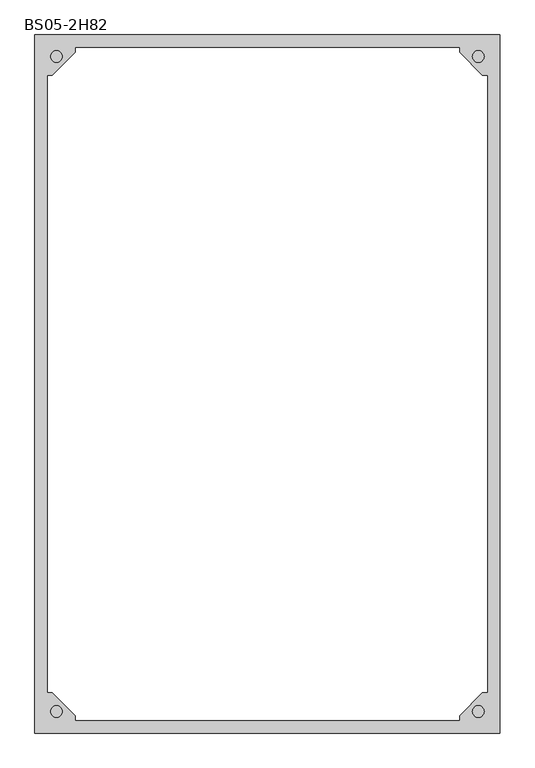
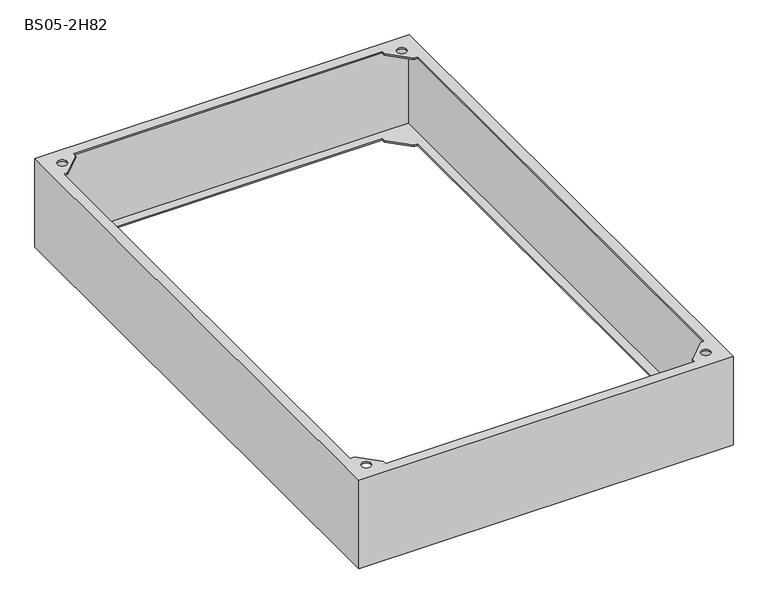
"""IFC4 building model written with IfcOpenShell, lengths in millimetres: proxy geometry, Цоколь для напольных шкафов : BS05-2H82."""

from ifc_helpers import new_model, si_unit, frame, origin, place, context, project, spatial, polyline, circle_curve, source, transform, mapped, element, save
from ifc_brep_helpers import plane_surface, revolved_surface, advanced_brep


def bs05_2h82_ed295d53(model_context):
    return source(origin(), model_context, "Body", "AdvancedBrep", [
        advanced_brep(
        [(400.0, -600.0, 200.0), (400.0, -600.0, 197.0), (400.0, -600.0, 3.0), (400.0, -600.0, 0.0), (400.0, 600.0, 0.0), (400.0, 600.0, 3.0), (400.0, 600.0, 197.0), (400.0, 600.0, 200.0), (378.0, 530.0, 0.0), (378.0, -530.0, 0.0), (378.0, -530.0, 3.0), (378.0, 530.0, 3.0), (397.0, 597.0, 197.0), (397.0, 597.0, 3.0), (397.0, -597.0, 3.0), (397.0, -597.0, 197.0), (378.0, 530.0, 197.0), (378.0, -530.0, 197.0), (378.0, -530.0, 200.0), (378.0, 530.0, 200.0), (-400.0, -600.0, 200.0), (-400.0, -600.0, 197.0), (-400.0, -600.0, 3.0), (-400.0, -600.0, 0.0), (330.0, -578.0, 0.0), (-330.0, -578.0, 0.0), (-330.0, -578.0, 3.0), (330.0, -578.0, 3.0), (-397.0, -597.0, 3.0), (-397.0, -597.0, 197.0), (330.0, -578.0, 197.0), (-330.0, -578.0, 197.0), (-330.0, -578.0, 200.0), (330.0, -578.0, 200.0), (-400.0, 600.0, 200.0), (-400.0, 600.0, 197.0), (-400.0, 600.0, 3.0), (-400.0, 600.0, 0.0), (-378.0, -530.0, 0.0), (-378.0, 530.0, 0.0), (-378.0, 530.0, 3.0), (-378.0, -530.0, 3.0), (-397.0, 597.0, 3.0), (-397.0, 597.0, 197.0), (-378.0, -530.0, 197.0), (-378.0, 530.0, 197.0), (-378.0, 530.0, 200.0), (-378.0, -530.0, 200.0), (-330.0, -570.0, 200.0), (-370.0, -530.0, 200.0), (-370.0, 530.0, 200.0), (-330.0, 570.0, 200.0), (-330.0, 578.0, 200.0), (330.0, 578.0, 200.0), (330.0, 570.0, 200.0), (370.0, 530.0, 200.0), (370.0, -530.0, 200.0), (330.0, -570.0, 200.0), (-352.9289322, -562.9289322, 200.0), (-372.9289322, -562.9289322, 200.0), (372.9289322, -562.9289322, 200.0), (352.9289322, -562.9289322, 200.0), (-352.9289322, 562.9289322, 200.0), (-372.9289322, 562.9289322, 200.0), (372.9289322, 562.9289322, 200.0), (352.9289322, 562.9289322, 200.0), (370.0, 530.0, 0.0), (330.0, 570.0, 0.0), (330.0, 578.0, 0.0), (-330.0, 578.0, 0.0), (-330.0, 570.0, 0.0), (-370.0, 530.0, 0.0), (-370.0, -530.0, 0.0), (-330.0, -570.0, 0.0), (330.0, -570.0, 0.0), (370.0, -530.0, 0.0), (330.0, 578.0, 3.0), (-330.0, 578.0, 3.0), (370.0, -530.0, 3.0), (330.0, -570.0, 3.0), (-330.0, -570.0, 3.0), (-370.0, -530.0, 3.0), (-370.0, 530.0, 3.0), (-330.0, 570.0, 3.0), (330.0, 570.0, 3.0), (370.0, 530.0, 3.0), (-370.0, -530.0, 197.0), (-330.0, -570.0, 197.0), (330.0, -570.0, 197.0), (370.0, -530.0, 197.0), (370.0, 530.0, 197.0), (330.0, 570.0, 197.0), (330.0, 578.0, 197.0), (-330.0, 578.0, 197.0), (-330.0, 570.0, 197.0), (-370.0, 530.0, 197.0), (-352.9289322, -562.9289322, 197.0), (-372.9289322, -562.9289322, 197.0), (372.9289322, -562.9289322, 197.0), (352.9289322, -562.9289322, 197.0), (-352.9289322, 562.9289322, 197.0), (-372.9289322, 562.9289322, 197.0), (372.9289322, 562.9289322, 197.0), (352.9289322, 562.9289322, 197.0)],
        [
            (0, 1),
            (1, 2),
            (2, 3),
            (3, 4),
            (4, 5),
            (5, 6),
            (6, 7),
            (7, 0),
            (8, 9),
            (9, 10),
            (10, 11),
            (11, 8),
            (12, 13),
            (13, 14),
            (14, 15),
            (15, 12),
            (16, 17),
            (17, 18),
            (18, 19),
            (19, 16),
            (0, 20),
            (20, 21),
            (21, 22),
            (22, 23),
            (23, 3),
            (24, 25),
            (25, 26),
            (26, 27),
            (27, 24),
            (14, 28),
            (28, 29),
            (29, 15),
            (30, 31),
            (31, 32),
            (32, 33),
            (33, 30),
            (20, 34),
            (34, 35),
            (35, 36),
            (36, 37),
            (37, 23),
            (38, 39),
            (39, 40),
            (40, 41),
            (41, 38),
            (28, 42),
            (42, 43),
            (43, 29),
            (44, 45),
            (45, 46),
            (46, 47),
            (47, 44),
            (7, 34),
            (48, 49),
            (49, 47),
            (46, 50),
            (50, 51),
            (51, 52),
            (52, 53),
            (53, 54),
            (54, 55),
            (55, 19),
            (18, 56),
            (56, 57),
            (57, 33),
            (32, 48),
            (58, 59, circle_curve(frame((-362.9289322, -562.9289322, 200.0), z_axis=(0.0, 0.0, -1.0), x_axis=(-1.0, 0.0, 0.0)), 10.0)),
            (59, 58, circle_curve(frame((-362.9289322, -562.9289322, 200.0), z_axis=(0.0, 0.0, -1.0), x_axis=(-1.0, 0.0, 0.0)), 10.0)),
            (60, 61, circle_curve(frame((362.9289322, -562.9289322, 200.0), z_axis=(0.0, 0.0, -1.0), x_axis=(-1.0, 0.0, 0.0)), 10.0)),
            (61, 60, circle_curve(frame((362.9289322, -562.9289322, 200.0), z_axis=(0.0, 0.0, -1.0), x_axis=(-1.0, 0.0, 0.0)), 10.0)),
            (62, 63, circle_curve(frame((-362.9289322, 562.9289322, 200.0), z_axis=(0.0, 0.0, -1.0), x_axis=(-1.0, 0.0, 0.0)), 10.0)),
            (63, 62, circle_curve(frame((-362.9289322, 562.9289322, 200.0), z_axis=(0.0, 0.0, -1.0), x_axis=(-1.0, 0.0, 0.0)), 10.0)),
            (64, 65, circle_curve(frame((362.9289322, 562.9289322, 200.0), z_axis=(0.0, 0.0, -1.0), x_axis=(-1.0, 0.0, 0.0)), 10.0)),
            (65, 64, circle_curve(frame((362.9289322, 562.9289322, 200.0), z_axis=(0.0, 0.0, -1.0), x_axis=(-1.0, 0.0, 0.0)), 10.0)),
            (4, 37),
            (8, 66),
            (66, 67),
            (67, 68),
            (68, 69),
            (69, 70),
            (70, 71),
            (71, 39),
            (38, 72),
            (72, 73),
            (73, 25),
            (24, 74),
            (74, 75),
            (75, 9),
            (68, 76),
            (76, 77),
            (77, 69),
            (13, 42),
            (10, 78),
            (78, 79),
            (79, 27),
            (26, 80),
            (80, 81),
            (81, 41),
            (40, 82),
            (82, 83),
            (83, 77),
            (76, 84),
            (84, 85),
            (85, 11),
            (12, 43),
            (86, 87),
            (87, 31),
            (30, 88),
            (88, 89),
            (89, 17),
            (16, 90),
            (90, 91),
            (91, 92),
            (92, 93),
            (93, 94),
            (94, 95),
            (95, 45),
            (44, 86),
            (96, 97, circle_curve(frame((-362.9289322, -562.9289322, 197.0), z_axis=(0.0, 0.0, 1.0), x_axis=(-1.0, 0.0, 0.0)), 10.0)),
            (97, 96, circle_curve(frame((-362.9289322, -562.9289322, 197.0), z_axis=(0.0, 0.0, 1.0), x_axis=(-1.0, 0.0, 0.0)), 10.0)),
            (98, 99, circle_curve(frame((362.9289322, -562.9289322, 197.0), z_axis=(0.0, 0.0, 1.0), x_axis=(-1.0, 0.0, 0.0)), 10.0)),
            (99, 98, circle_curve(frame((362.9289322, -562.9289322, 197.0), z_axis=(0.0, 0.0, 1.0), x_axis=(-1.0, 0.0, 0.0)), 10.0)),
            (100, 101, circle_curve(frame((-362.9289322, 562.9289322, 197.0), z_axis=(0.0, 0.0, 1.0), x_axis=(-1.0, 0.0, 0.0)), 10.0)),
            (101, 100, circle_curve(frame((-362.9289322, 562.9289322, 197.0), z_axis=(0.0, 0.0, 1.0), x_axis=(-1.0, 0.0, 0.0)), 10.0)),
            (102, 103, circle_curve(frame((362.9289322, 562.9289322, 197.0), z_axis=(0.0, 0.0, 1.0), x_axis=(-1.0, 0.0, 0.0)), 10.0)),
            (103, 102, circle_curve(frame((362.9289322, 562.9289322, 197.0), z_axis=(0.0, 0.0, 1.0), x_axis=(-1.0, 0.0, 0.0)), 10.0)),
            (52, 93),
            (92, 53),
            (87, 48),
            (86, 49),
            (89, 56),
            (88, 57),
            (95, 50),
            (94, 51),
            (91, 54),
            (90, 55),
            (58, 96),
            (97, 59),
            (60, 98),
            (99, 61),
            (62, 100),
            (101, 63),
            (64, 102),
            (103, 65),
            (73, 80),
            (72, 81),
            (75, 78),
            (74, 79),
            (71, 82),
            (70, 83),
            (67, 84),
            (66, 85),
        ],
        [
            plane_surface(frame((400.0, 600.0, 200.0), z_axis=(1.0, 0.0, 0.0), x_axis=(0.0, -1.0, 0.0))),
            plane_surface(frame((378.0, 578.0, 0.0), z_axis=(-1.0, 0.0, 0.0), x_axis=(0.0, -1.0, 0.0))),
            plane_surface(frame((397.0, 597.0, 3.0), z_axis=(-1.0, 0.0, 0.0), x_axis=(0.0, -1.0, 0.0))),
            plane_surface(frame((378.0, 578.0, 197.0), z_axis=(-1.0, 0.0, 0.0), x_axis=(0.0, -1.0, 0.0))),
            plane_surface(frame((400.0, -600.0, 200.0), z_axis=(0.0, -1.0, 0.0), x_axis=(-1.0, 0.0, 0.0))),
            plane_surface(frame((378.0, -578.0, 0.0), z_axis=(0.0, 1.0, 0.0), x_axis=(-1.0, 0.0, 0.0))),
            plane_surface(frame((397.0, -597.0, 3.0), z_axis=(0.0, 1.0, 0.0), x_axis=(-1.0, 0.0, 0.0))),
            plane_surface(frame((378.0, -578.0, 197.0), z_axis=(0.0, 1.0, 0.0), x_axis=(-1.0, 0.0, 0.0))),
            plane_surface(frame((-400.0, -600.0, 200.0), z_axis=(-1.0, 0.0, 0.0), x_axis=(0.0, 1.0, 0.0))),
            plane_surface(frame((-378.0, -578.0, 0.0), z_axis=(1.0, 0.0, 0.0), x_axis=(0.0, 1.0, 0.0))),
            plane_surface(frame((-397.0, -597.0, 3.0), z_axis=(1.0, 0.0, 0.0), x_axis=(0.0, 1.0, 0.0))),
            plane_surface(frame((-378.0, -578.0, 197.0), z_axis=(1.0, 0.0, 0.0), x_axis=(0.0, 1.0, 0.0))),
            plane_surface(frame((-378.0, 578.0, 200.0), z_axis=(0.0, 0.0, 1.0), x_axis=(1.0, 0.0, 0.0))),
            plane_surface(frame((-400.0, 600.0, 200.0), z_axis=(0.0, 1.0, 0.0), x_axis=(1.0, 0.0, 0.0))),
            plane_surface(frame((-400.0, 600.0, 0.0), z_axis=(0.0, 0.0, -1.0), x_axis=(1.0, 0.0, 0.0))),
            plane_surface(frame((-378.0, 578.0, 0.0), z_axis=(0.0, -1.0, 0.0), x_axis=(1.0, 0.0, 0.0))),
            plane_surface(frame((-378.0, 578.0, 3.0), z_axis=(0.0, 0.0, 1.0), x_axis=(1.0, 0.0, 0.0))),
            plane_surface(frame((-397.0, 597.0, 3.0), z_axis=(0.0, -1.0, 0.0), x_axis=(1.0, 0.0, 0.0))),
            plane_surface(frame((-397.0, 597.0, 197.0), z_axis=(0.0, 0.0, -1.0), x_axis=(1.0, 0.0, 0.0))),
            plane_surface(frame((-378.0, 578.0, 197.0), z_axis=(0.0, -1.0, 0.0), x_axis=(1.0, 0.0, 0.0))),
            plane_surface(frame((-330.0, -600.0, 200.0), z_axis=(1.0, 0.0, 0.0), x_axis=(0.0, 0.0, -1.0))),
            plane_surface(frame((-330.0, -570.0, 200.0), z_axis=(0.7071067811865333, 0.7071067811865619, 0.0), x_axis=(0.0, 0.0, -1.0))),
            plane_surface(frame((-370.0, -530.0, 200.0), z_axis=(0.0, 1.0, 0.0), x_axis=(0.0, 0.0, -1.0))),
            plane_surface(frame((400.0, -530.0, 200.0), z_axis=(0.0, 1.0, 0.0), x_axis=(0.0, 0.0, -1.0))),
            plane_surface(frame((370.0, -530.0, 200.0), z_axis=(-0.7071067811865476, 0.7071067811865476, 0.0), x_axis=(0.0, 0.0, -1.0))),
            plane_surface(frame((330.0, -570.0, 200.0), z_axis=(-1.0, 0.0, 0.0), x_axis=(0.0, 0.0, -1.0))),
            plane_surface(frame((-400.0, 530.0, 200.0), z_axis=(0.0, -1.0, 0.0), x_axis=(0.0, 0.0, -1.0))),
            plane_surface(frame((-370.0, 530.0, 200.0), z_axis=(0.7071067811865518, -0.7071067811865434, 0.0), x_axis=(0.0, 0.0, -1.0))),
            plane_surface(frame((-330.0, 570.0, 200.0), z_axis=(1.0, 0.0, 0.0), x_axis=(0.0, 0.0, -1.0))),
            plane_surface(frame((330.0, 600.0, 200.0), z_axis=(-1.0, 0.0, 0.0), x_axis=(0.0, 0.0, -1.0))),
            plane_surface(frame((330.0, 570.0, 200.0), z_axis=(-0.7071067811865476, -0.7071067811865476, 0.0), x_axis=(0.0, 0.0, -1.0))),
            plane_surface(frame((370.0, 530.0, 200.0), z_axis=(0.0, -1.0, 0.0), x_axis=(0.0, 0.0, -1.0))),
            revolved_surface(polyline([(-372.9289322, -562.9289322, 197.0), (-372.9289322, -562.9289322, 200.0)]), (-362.9289322, -562.9289322, 200.0), (0.0, 0.0, -1.0)),
            revolved_surface(polyline([(352.9289322, -562.9289322, 197.0), (352.9289322, -562.9289322, 200.0)]), (362.9289322, -562.9289322, 200.0), (0.0, 0.0, -1.0)),
            revolved_surface(polyline([(-372.9289322, 562.9289322, 197.0), (-372.9289322, 562.9289322, 200.0)]), (-362.9289322, 562.9289322, 200.0), (0.0, 0.0, -1.0)),
            revolved_surface(polyline([(352.9289322, 562.9289322, 197.0), (352.9289322, 562.9289322, 200.0)]), (362.9289322, 562.9289322, 200.0), (0.0, 0.0, -1.0)),
            plane_surface(frame((-330.0, -600.0, 3.0), z_axis=(1.0, 0.0, 0.0), x_axis=(0.0, 0.0, -1.0))),
            plane_surface(frame((-330.0, -570.0, 3.0), z_axis=(0.7071067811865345, 0.7071067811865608, 0.0), x_axis=(0.0, 0.0, -1.0))),
            plane_surface(frame((-370.0, -530.0, 3.0), z_axis=(0.0, 1.0, 0.0), x_axis=(0.0, 0.0, -1.0))),
            plane_surface(frame((400.0, -530.0, 3.0), z_axis=(0.0, 1.0, 0.0), x_axis=(0.0, 0.0, -1.0))),
            plane_surface(frame((370.0, -530.0, 3.0), z_axis=(-0.7071067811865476, 0.7071067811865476, 0.0), x_axis=(0.0, 0.0, -1.0))),
            plane_surface(frame((330.0, -570.0, 3.0), z_axis=(-1.0, 0.0, 0.0), x_axis=(0.0, 0.0, -1.0))),
            plane_surface(frame((-400.0, 530.0, 3.0), z_axis=(0.0, -1.0, 0.0), x_axis=(0.0, 0.0, -1.0))),
            plane_surface(frame((-370.0, 530.0, 3.0), z_axis=(0.7071067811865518, -0.7071067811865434, 0.0), x_axis=(0.0, 0.0, -1.0))),
            plane_surface(frame((-330.0, 570.0, 3.0), z_axis=(1.0, 0.0, 0.0), x_axis=(0.0, 0.0, -1.0))),
            plane_surface(frame((330.0, 600.0, 3.0), z_axis=(-1.0, 0.0, 0.0), x_axis=(0.0, 0.0, -1.0))),
            plane_surface(frame((330.0, 570.0, 3.0), z_axis=(-0.7071067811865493, -0.7071067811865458, 0.0), x_axis=(0.0, 0.0, -1.0))),
            plane_surface(frame((370.0, 530.0, 3.0), z_axis=(0.0, -1.0, 0.0), x_axis=(0.0, 0.0, -1.0))),
        ],
        [
            (0, [[1, 2, 3, 4, 5, 6, 7, 8]]),
            (1, [[9, 10, 11, 12]]),
            (2, [[13, 14, 15, 16]]),
            (3, [[17, 18, 19, 20]]),
            (4, [[-1, 21, 22, 23, 24, 25, -3, -2]]),
            (5, [[26, 27, 28, 29]]),
            (6, [[-15, 30, 31, 32]]),
            (7, [[33, 34, 35, 36]]),
            (8, [[-22, 37, 38, 39, 40, 41, -24, -23]]),
            (9, [[42, 43, 44, 45]]),
            (10, [[-31, 46, 47, 48]]),
            (11, [[49, 50, 51, 52]]),
            (12, [[-8, 53, -37, -21], [54, 55, -51, 56, 57, 58, 59, 60, 61, 62, -19, 63, 64, 65, -35, 66], [67, 68], [69, 70], [71, 72], [73, 74]]),
            (13, [[-38, -53, -7, -6, -5, 75, -40, -39]]),
            (14, [[-4, -25, -41, -75], [-9, 76, 77, 78, 79, 80, 81, 82, -42, 83, 84, 85, -26, 86, 87, 88]]),
            (15, [[-79, 89, 90, 91]]),
            (16, [[-14, 92, -46, -30], [-11, 93, 94, 95, -28, 96, 97, 98, -44, 99, 100, 101, -90, 102, 103, 104]]),
            (17, [[-92, -13, 105, -47]]),
            (18, [[-32, -48, -105, -16], [106, 107, -33, 108, 109, 110, -17, 111, 112, 113, 114, 115, 116, 117, -49, 118], [119, 120], [121, 122], [123, 124], [125, 126]]),
            (19, [[-59, 127, -114, 128]]),
            (20, [[129, -66, -34, -107]]),
            (21, [[-54, -129, -106, 130]]),
            (22, [[-130, -118, -52, -55]]),
            (23, [[131, -63, -18, -110]]),
            (24, [[-64, -131, -109, 132]]),
            (25, [[-132, -108, -36, -65]]),
            (26, [[133, -56, -50, -117]]),
            (27, [[-57, -133, -116, 134]]),
            (28, [[-134, -115, -127, -58]]),
            (29, [[135, -60, -128, -113]]),
            (30, [[-61, -135, -112, 136]]),
            (31, [[-136, -111, -20, -62]]),
            (32, [[-67, 137, -120, 138]]),
            (32, [[-68, -138, -119, -137]]),
            (33, [[-69, 139, -122, 140]]),
            (33, [[-70, -140, -121, -139]]),
            (34, [[-71, 141, -124, 142]]),
            (34, [[-72, -142, -123, -141]]),
            (35, [[-73, 143, -126, 144]]),
            (35, [[-74, -144, -125, -143]]),
            (36, [[145, -96, -27, -85]]),
            (37, [[-97, -145, -84, 146]]),
            (38, [[-146, -83, -45, -98]]),
            (39, [[147, -93, -10, -88]]),
            (40, [[-94, -147, -87, 148]]),
            (41, [[-148, -86, -29, -95]]),
            (42, [[149, -99, -43, -82]]),
            (43, [[-100, -149, -81, 150]]),
            (44, [[-150, -80, -91, -101]]),
            (45, [[151, -102, -89, -78]]),
            (46, [[-103, -151, -77, 152]]),
            (47, [[-152, -76, -12, -104]]),
        ],
    ),
    ])


if __name__ == "__main__":
    model = new_model("IFC4")
    model_context = context("Model", 3, world=origin())
    ifc_project = project(units=[si_unit("LENGTHUNIT", "METRE", prefix="MILLI")], contexts=[model_context])
    site = spatial("IfcSite", under=ifc_project)
    building = spatial("IfcBuilding", under=site)
    placement = place(None, origin())
    bs05_2h82_shape = bs05_2h82_ed295d53(model_context)
    element("IfcBuildingElementProxy", 1, Name="Цоколь для напольных шкафов : BS05-2H82", ObjectType="Цоколь для напольных шкафов : BS05-2H82", at=placement, inside=building, context=model_context, shape_type="MappedRepresentation", body=[
        mapped(bs05_2h82_shape, transform((0.0, 0.0, 0.0), x_axis=(1.0, 0.0, 0.0), y_axis=(0.0, 1.0, 0.0), z_axis=(0.0, 0.0, 1.0))),
    ])
    save(model, "model.ifc")
